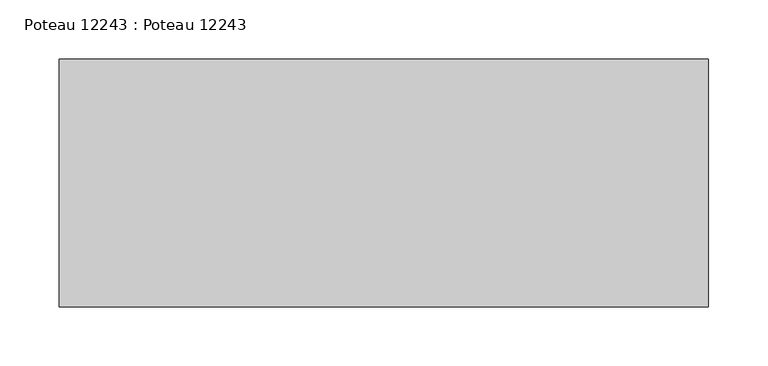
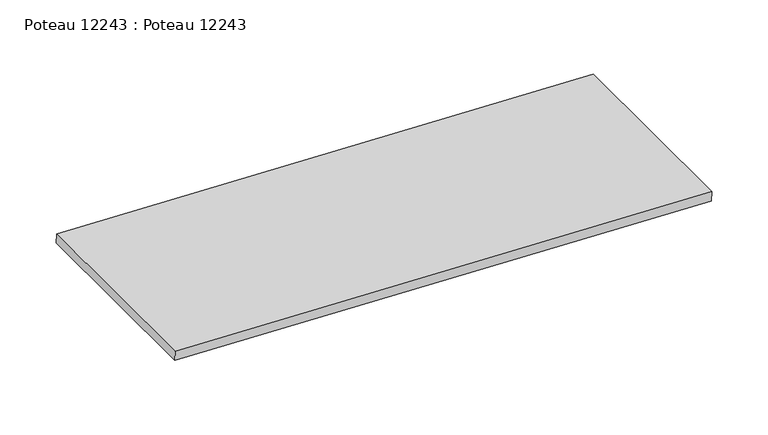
"""IFC4 building model written with IfcOpenShell, lengths in millimetres: beam geometry, Poteau 12243 : Poteau 12243."""

from ifc_helpers import new_model, si_unit, frame, origin, place, context, project, spatial, polyline, outline, extrude, source, transform, mapped, element, save


def poteau_12243_poteau_12243_12e06a7f(model_context):
    return source(origin(), model_context, "Body", "SweptSolid", [
        extrude(outline(polyline([(0.0, -549.9778081), (0.0, 0.0), (210.0, 0.0), (210.0, -549.9778081), (0.0, -549.9778081)])), frame((15389.6412558, -15.0, 7485.0564329), z_axis=(0.03497858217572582, 0.0, 0.9993880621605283), x_axis=(0.0, -1.0, 0.0)), (0.0, 0.0, 1.0), 10.0),
    ])


if __name__ == "__main__":
    model = new_model("IFC4")
    model_context = context("Model", 3, world=origin())
    ifc_project = project(units=[si_unit("LENGTHUNIT", "METRE", prefix="MILLI")], contexts=[model_context])
    site = spatial("IfcSite", under=ifc_project)
    building = spatial("IfcBuilding", under=site)
    placement = place(None, origin())
    poteau_12243_poteau_12243_shape = poteau_12243_poteau_12243_12e06a7f(model_context)
    element("IfcBeam", 1, ObjectType="Poteau 12243 : Poteau 12243", at=placement, inside=building, context=model_context, shape_type="MappedRepresentation", body=[
        mapped(poteau_12243_poteau_12243_shape, transform((0.0, 0.0, 0.0), x_axis=(1.0, 0.0, 0.0), y_axis=(0.0, 1.0, 0.0), z_axis=(0.0, 0.0, 1.0))),
    ])
    save(model, "model.ifc")
